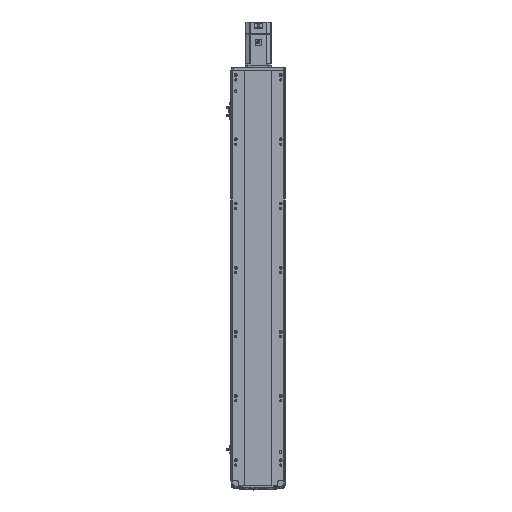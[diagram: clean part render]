
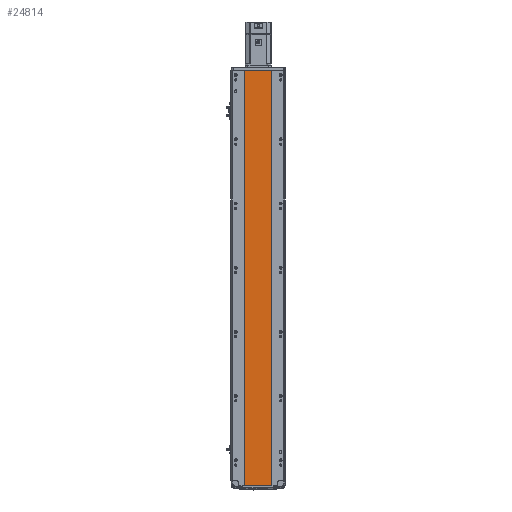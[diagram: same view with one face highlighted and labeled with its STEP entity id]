
A CAD part, front view. The second image highlights one B-rep face of the part: STEP entity #24814.
In plain terms, the highlighted planar face has unit normal (0, -1, 0).
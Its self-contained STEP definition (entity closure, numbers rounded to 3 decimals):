
#2093 = LINE ( 'NONE', #36013, #22251 ) ;
#4357 = DIRECTION ( 'NONE',  ( 0., 1., 0. ) ) ;
#4544 = LINE ( 'NONE', #6856, #47490 ) ;
#5255 = CARTESIAN_POINT ( 'NONE',  ( -41.791, 1., 0. ) ) ;
#6856 = CARTESIAN_POINT ( 'NONE',  ( 41.793, 0.998, 1293.5 ) ) ;
#7390 = DIRECTION ( 'NONE',  ( 0., 0., -1. ) ) ;
#7637 = VERTEX_POINT ( 'NONE', #29615 ) ;
#9067 = CARTESIAN_POINT ( 'NONE',  ( 0., 0.999, 1293.5 ) ) ;
#9187 = EDGE_CURVE ( 'NONE', #12128, #23511, #17009, .T. ) ;
#9555 = ORIENTED_EDGE ( 'NONE', *, *, #9187, .T. ) ;
#9757 = EDGE_LOOP ( 'NONE', ( #33039, #21943, #35353, #9555 ) ) ;
#10096 = LINE ( 'NONE', #9067, #21809 ) ;
#10492 = EDGE_CURVE ( 'NONE', #36328, #7637, #4544, .T. ) ;
#12016 = CARTESIAN_POINT ( 'NONE',  ( 0., 0.999, 1293.5 ) ) ;
#12128 = VERTEX_POINT ( 'NONE', #14697 ) ;
#12428 = DIRECTION ( 'NONE',  ( 0., 0., -1. ) ) ;
#14697 = CARTESIAN_POINT ( 'NONE',  ( -41.791, 1., 1293.5 ) ) ;
#14702 = EDGE_CURVE ( 'NONE', #12128, #36328, #10096, .T. ) ;
#17009 = LINE ( 'NONE', #49873, #37222 ) ;
#17061 = DIRECTION ( 'NONE',  ( 1., 0., 0. ) ) ;
#21809 = VECTOR ( 'NONE', #17061, 1000. ) ;
#21943 = ORIENTED_EDGE ( 'NONE', *, *, #10492, .F. ) ;
#22251 = VECTOR ( 'NONE', #31255, 1000. ) ;
#23511 = VERTEX_POINT ( 'NONE', #5255 ) ;
#24731 = DIRECTION ( 'NONE',  ( -1., 0., 0. ) ) ;
#24814 = ADVANCED_FACE ( 'NONE', ( #38243 ), #41093, .F. ) ;
#29615 = CARTESIAN_POINT ( 'NONE',  ( 41.793, 0.998, 0. ) ) ;
#31255 = DIRECTION ( 'NONE',  ( 1., 0., 0. ) ) ;
#32990 = CARTESIAN_POINT ( 'NONE',  ( 41.793, 0.998, 1293.5 ) ) ;
#33039 = ORIENTED_EDGE ( 'NONE', *, *, #42032, .T. ) ;
#34313 = AXIS2_PLACEMENT_3D ( 'NONE', #12016, #4357, #24731 ) ;
#35353 = ORIENTED_EDGE ( 'NONE', *, *, #14702, .F. ) ;
#36013 = CARTESIAN_POINT ( 'NONE',  ( 0., 0.999, 0. ) ) ;
#36328 = VERTEX_POINT ( 'NONE', #32990 ) ;
#37222 = VECTOR ( 'NONE', #12428, 1000. ) ;
#38243 = FACE_OUTER_BOUND ( 'NONE', #9757, .T. ) ;
#41093 = PLANE ( 'NONE',  #34313 ) ;
#42032 = EDGE_CURVE ( 'NONE', #23511, #7637, #2093, .T. ) ;
#47490 = VECTOR ( 'NONE', #7390, 1000. ) ;
#49873 = CARTESIAN_POINT ( 'NONE',  ( -41.791, 1., 1293.5 ) ) ;
